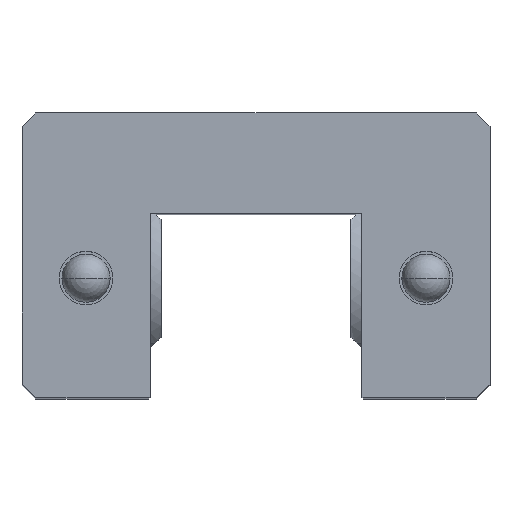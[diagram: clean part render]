
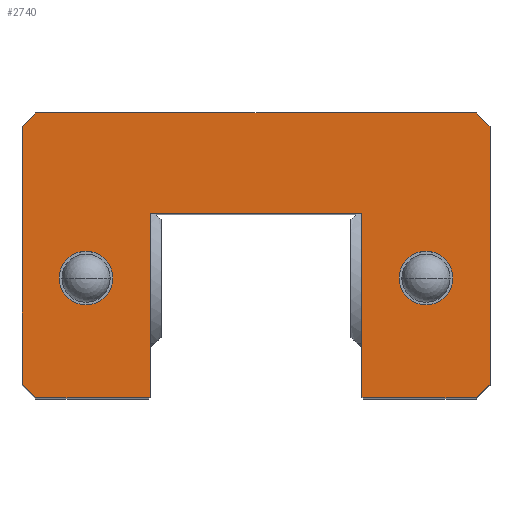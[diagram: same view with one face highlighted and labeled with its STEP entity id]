
A CAD part, top view. The second image highlights one B-rep face of the part: STEP entity #2740.
In plain terms, the highlighted planar face has unit normal (0, 0, 1).
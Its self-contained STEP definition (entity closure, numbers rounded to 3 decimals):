
#1554 = VERTEX_POINT( '', #4610 );
#1568 = VERTEX_POINT( '', #4626 );
#1576 = EDGE_CURVE( '', #1554, #1862, #4634, .T. );
#1592 = EDGE_CURVE( '', #2868, #4170, #4652, .T. );
#1676 = EDGE_CURVE( '', #3686, #2584, #4743, .T. );
#1790 = VERTEX_POINT( '', #4876 );
#1800 = VERTEX_POINT( '', #4888 );
#1862 = VERTEX_POINT( '', #4957 );
#1928 = EDGE_CURVE( '', #1568, #4390, #5029, .T. );
#1980 = EDGE_CURVE( '', #3802, #4408, #5084, .T. );
#2042 = VERTEX_POINT( '', #5152 );
#2138 = EDGE_CURVE( '', #1790, #1554, #5260, .T. );
#2222 = EDGE_CURVE( '', #2042, #1790, #5356, .T. );
#2496 = EDGE_CURVE( '', #1800, #2714, #5666, .T. );
#2534 = EDGE_CURVE( '', #4408, #3802, #5708, .T. );
#2584 = VERTEX_POINT( '', #5760 );
#2714 = VERTEX_POINT( '', #5911 );
#2740 = ADVANCED_FACE( '', ( #5942, #5943, #5944 ), #5945, .T. );
#2830 = EDGE_CURVE( '', #2584, #2042, #6053, .T. );
#2868 = VERTEX_POINT( '', #6095 );
#2894 = EDGE_CURVE( '', #2714, #4108, #6124, .T. );
#3184 = EDGE_CURVE( '', #4010, #4232, #6463, .T. );
#3550 = VERTEX_POINT( '', #6866 );
#3614 = EDGE_CURVE( '', #4390, #1568, #6934, .T. );
#3686 = VERTEX_POINT( '', #7009 );
#3716 = EDGE_CURVE( '', #4108, #3550, #7042, .T. );
#3802 = VERTEX_POINT( '', #7141 );
#3826 = EDGE_CURVE( '', #4170, #3686, #7166, .T. );
#3966 = EDGE_CURVE( '', #3550, #2868, #7325, .T. );
#4010 = VERTEX_POINT( '', #7372 );
#4100 = EDGE_CURVE( '', #1862, #4010, #7466, .T. );
#4108 = VERTEX_POINT( '', #7475 );
#4170 = VERTEX_POINT( '', #7547 );
#4232 = VERTEX_POINT( '', #7615 );
#4366 = EDGE_CURVE( '', #4232, #1800, #7762, .T. );
#4390 = VERTEX_POINT( '', #7787 );
#4408 = VERTEX_POINT( '', #7806 );
#4610 = CARTESIAN_POINT( '', ( 7.7, 16.7, 0. ) );
#4626 = CARTESIAN_POINT( '', ( 12.35, 13.95, 0. ) );
#4634 = LINE( '', #8058, #8059 );
#4652 = LINE( '', #8081, #8082 );
#4743 = LINE( '', #8213, #8214 );
#4876 = CARTESIAN_POINT( '', ( -7.7, 16.7, 0. ) );
#4888 = CARTESIAN_POINT( '', ( 17., 4.3, 0. ) );
#4957 = CARTESIAN_POINT( '', ( 7.7, 3.4, 0. ) );
#5029 = CIRCLE( '', #8613, 1.95 );
#5084 = CIRCLE( '', #8686, 1.95 );
#5152 = CARTESIAN_POINT( '', ( -7.7, 3.4, 0. ) );
#5260 = LINE( '', #8941, #8942 );
#5356 = LINE( '', #9068, #9069 );
#5666 = LINE( '', #9480, #9481 );
#5708 = CIRCLE( '', #9537, 1.95 );
#5760 = CARTESIAN_POINT( '', ( -7.8, 3.3, 0. ) );
#5911 = CARTESIAN_POINT( '', ( 17., 23., 0. ) );
#5942 = FACE_BOUND( '', #9831, .T. );
#5943 = FACE_BOUND( '', #9832, .T. );
#5944 = FACE_OUTER_BOUND( '', #9833, .T. );
#5945 = PLANE( '', #9834 );
#6053 = LINE( '', #9984, #9985 );
#6095 = CARTESIAN_POINT( '', ( -17., 23., 0. ) );
#6124 = LINE( '', #10075, #10076 );
#6463 = LINE( '', #10524, #10525 );
#6866 = CARTESIAN_POINT( '', ( -16., 24., 0. ) );
#6934 = CIRCLE( '', #11175, 1.95 );
#7009 = CARTESIAN_POINT( '', ( -16., 3.3, 0. ) );
#7042 = LINE( '', #11326, #11327 );
#7141 = CARTESIAN_POINT( '', ( -12.35, 13.95, 0. ) );
#7166 = LINE( '', #11501, #11502 );
#7325 = LINE( '', #11701, #11702 );
#7372 = CARTESIAN_POINT( '', ( 7.8, 3.3, 0. ) );
#7466 = LINE( '', #11900, #11901 );
#7475 = CARTESIAN_POINT( '', ( 16., 24., 0. ) );
#7547 = CARTESIAN_POINT( '', ( -17., 4.3, 0. ) );
#7615 = CARTESIAN_POINT( '', ( 16., 3.3, 0. ) );
#7762 = LINE( '', #12312, #12313 );
#7787 = CARTESIAN_POINT( '', ( 12.35, 10.05, 0. ) );
#7806 = CARTESIAN_POINT( '', ( -12.35, 10.05, 0. ) );
#8058 = CARTESIAN_POINT( '', ( 7.7, 16.7, 0. ) );
#8059 = VECTOR( '', #12683, 1. );
#8081 = CARTESIAN_POINT( '', ( -17., 23., 0. ) );
#8082 = VECTOR( '', #12704, 1. );
#8213 = CARTESIAN_POINT( '', ( -16., 3.3, 0. ) );
#8214 = VECTOR( '', #12792, 1. );
#8613 = AXIS2_PLACEMENT_3D( '', #13111, #13112, #13113 );
#8686 = AXIS2_PLACEMENT_3D( '', #13169, #13170, #13171 );
#8941 = CARTESIAN_POINT( '', ( -7.7, 16.7, 0. ) );
#8942 = VECTOR( '', #13388, 1. );
#9068 = CARTESIAN_POINT( '', ( -7.7, 3.4, 0. ) );
#9069 = VECTOR( '', #13507, 1. );
#9480 = CARTESIAN_POINT( '', ( 17., 4.3, 0. ) );
#9481 = VECTOR( '', #13877, 1. );
#9537 = AXIS2_PLACEMENT_3D( '', #13923, #13924, #13925 );
#9831 = EDGE_LOOP( '', ( #14214, #14215 ) );
#9832 = EDGE_LOOP( '', ( #14216, #14217 ) );
#9833 = EDGE_LOOP( '', ( #14218, #14219, #14220, #14221, #14222, #14223, #14224, #14225, #14226, #14227, #14228, #14229, #14230, #14231 ) );
#9834 = AXIS2_PLACEMENT_3D( '', #14232, #14233, #14234 );
#9984 = CARTESIAN_POINT( '', ( -7.8, 3.3, 0. ) );
#9985 = VECTOR( '', #14362, 1. );
#10075 = CARTESIAN_POINT( '', ( 17., 23., 0. ) );
#10076 = VECTOR( '', #14432, 1. );
#10524 = CARTESIAN_POINT( '', ( 7.8, 3.3, 0. ) );
#10525 = VECTOR( '', #14892, 1. );
#11175 = AXIS2_PLACEMENT_3D( '', #15401, #15402, #15403 );
#11326 = CARTESIAN_POINT( '', ( 16., 24., 0. ) );
#11327 = VECTOR( '', #15483, 1. );
#11501 = CARTESIAN_POINT( '', ( -17., 4.3, 0. ) );
#11502 = VECTOR( '', #15625, 1. );
#11701 = CARTESIAN_POINT( '', ( -16., 24., 0. ) );
#11702 = VECTOR( '', #15801, 1. );
#11900 = CARTESIAN_POINT( '', ( 7.7, 3.4, 0. ) );
#11901 = VECTOR( '', #15930, 1. );
#12312 = CARTESIAN_POINT( '', ( 16., 3.3, 0. ) );
#12313 = VECTOR( '', #16279, 1. );
#12683 = DIRECTION( '', ( 0., -1., 0. ) );
#12704 = DIRECTION( '', ( 0., -1., 0. ) );
#12792 = DIRECTION( '', ( 1., 0., 0. ) );
#13111 = CARTESIAN_POINT( '', ( 12.35, 12., 0. ) );
#13112 = DIRECTION( '', ( 0., 0., -1. ) );
#13113 = DIRECTION( '', ( 0., -1., 0. ) );
#13169 = CARTESIAN_POINT( '', ( -12.35, 12., 0. ) );
#13170 = DIRECTION( '', ( 0., 0., -1. ) );
#13171 = DIRECTION( '', ( 0., -1., 0. ) );
#13388 = DIRECTION( '', ( 1., 0., 0. ) );
#13507 = DIRECTION( '', ( 0., 1., 0. ) );
#13877 = DIRECTION( '', ( 0., 1., 0. ) );
#13923 = CARTESIAN_POINT( '', ( -12.35, 12., 0. ) );
#13924 = DIRECTION( '', ( 0., 0., -1. ) );
#13925 = DIRECTION( '', ( 0., -1., 0. ) );
#14214 = ORIENTED_EDGE( '', *, *, #1928, .T. );
#14215 = ORIENTED_EDGE( '', *, *, #3614, .T. );
#14216 = ORIENTED_EDGE( '', *, *, #1980, .T. );
#14217 = ORIENTED_EDGE( '', *, *, #2534, .T. );
#14218 = ORIENTED_EDGE( '', *, *, #1592, .T. );
#14219 = ORIENTED_EDGE( '', *, *, #3826, .T. );
#14220 = ORIENTED_EDGE( '', *, *, #1676, .T. );
#14221 = ORIENTED_EDGE( '', *, *, #2830, .T. );
#14222 = ORIENTED_EDGE( '', *, *, #2222, .T. );
#14223 = ORIENTED_EDGE( '', *, *, #2138, .T. );
#14224 = ORIENTED_EDGE( '', *, *, #1576, .T. );
#14225 = ORIENTED_EDGE( '', *, *, #4100, .T. );
#14226 = ORIENTED_EDGE( '', *, *, #3184, .T. );
#14227 = ORIENTED_EDGE( '', *, *, #4366, .T. );
#14228 = ORIENTED_EDGE( '', *, *, #2496, .T. );
#14229 = ORIENTED_EDGE( '', *, *, #2894, .T. );
#14230 = ORIENTED_EDGE( '', *, *, #3716, .T. );
#14231 = ORIENTED_EDGE( '', *, *, #3966, .T. );
#14232 = CARTESIAN_POINT( '', ( 0., 0., 0. ) );
#14233 = DIRECTION( '', ( 0., 0., 1. ) );
#14234 = DIRECTION( '', ( 1., 0., 0. ) );
#14362 = DIRECTION( '', ( 0.707, 0.707, 0. ) );
#14432 = DIRECTION( '', ( -0.707, 0.707, 0. ) );
#14892 = DIRECTION( '', ( 1., 0., 0. ) );
#15401 = CARTESIAN_POINT( '', ( 12.35, 12., 0. ) );
#15402 = DIRECTION( '', ( 0., 0., -1. ) );
#15403 = DIRECTION( '', ( 0., -1., 0. ) );
#15483 = DIRECTION( '', ( -1., 0., 0. ) );
#15625 = DIRECTION( '', ( 0.707, -0.707, 0. ) );
#15801 = DIRECTION( '', ( -0.707, -0.707, 0. ) );
#15930 = DIRECTION( '', ( 0.707, -0.707, 0. ) );
#16279 = DIRECTION( '', ( 0.707, 0.707, 0. ) );
